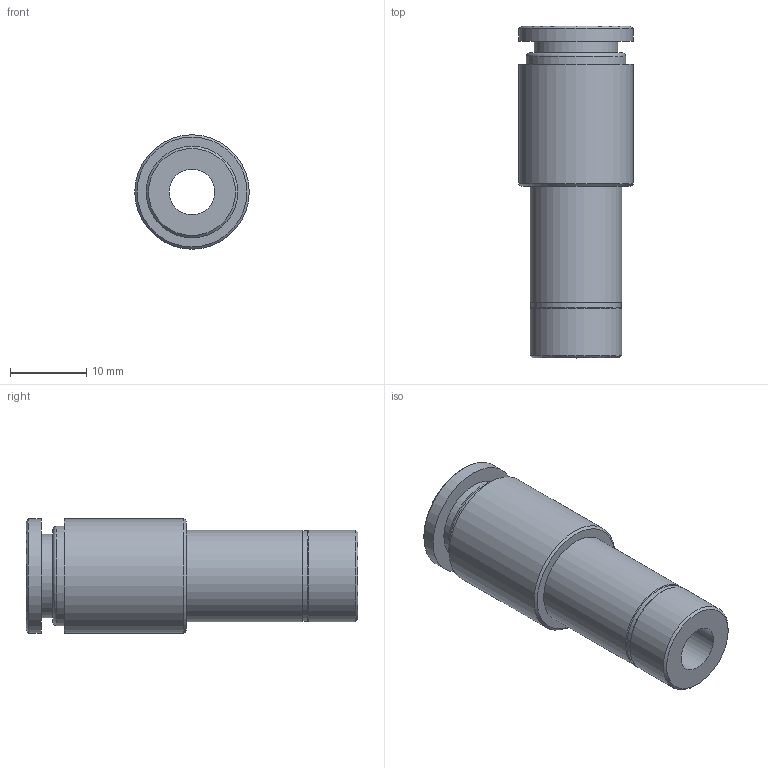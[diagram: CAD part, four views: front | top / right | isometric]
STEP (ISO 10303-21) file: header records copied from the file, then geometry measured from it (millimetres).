
FILE_DESCRIPTION(/* description */ (''),/* implementation_level */ '2;1');
FILE_NAME(/* name */ 'LXH66 1210 00.stp',/* time_stamp */ '2026-04-19T15:16:14+02:00',/* author */ ('freju'),/* organization */ (''),/* preprocessor_version */ 'ST-DEVELOPER v20.1',/* originating_system */ 'Autodesk Inventor 2026',/* authorisation */ '');
FILE_SCHEMA (('AUTOMOTIVE_DESIGN { 1 0 10303 214 3 1 1 }'));
Length unit declared in the file: millimetre
Products named in the file (1): LXH66 1210 00
Bounding box: 15 x 43.5 x 15 mm (x, y, z)
Volume: 3971.9 mm3; surface area: 3274.8 mm2
Topology: 1 solids, 1 shells, 22 faces, 45 edges, 30 vertices
Faces by surface type: cylinder 9, plane 7, torus 3, cone 3
Full cylindrical faces by diameter (mm): 6 x1, 10 x1, 11 x1, 11.8 x1, 12 x2, 13 x1, 15 x2
Entity records: 649 total; most frequent: DIRECTION 124, CARTESIAN_POINT 98, ORIENTED_EDGE 90, AXIS2_PLACEMENT_3D 56, EDGE_CURVE 45, CIRCLE 33, VERTEX_POINT 30, EDGE_LOOP 29
